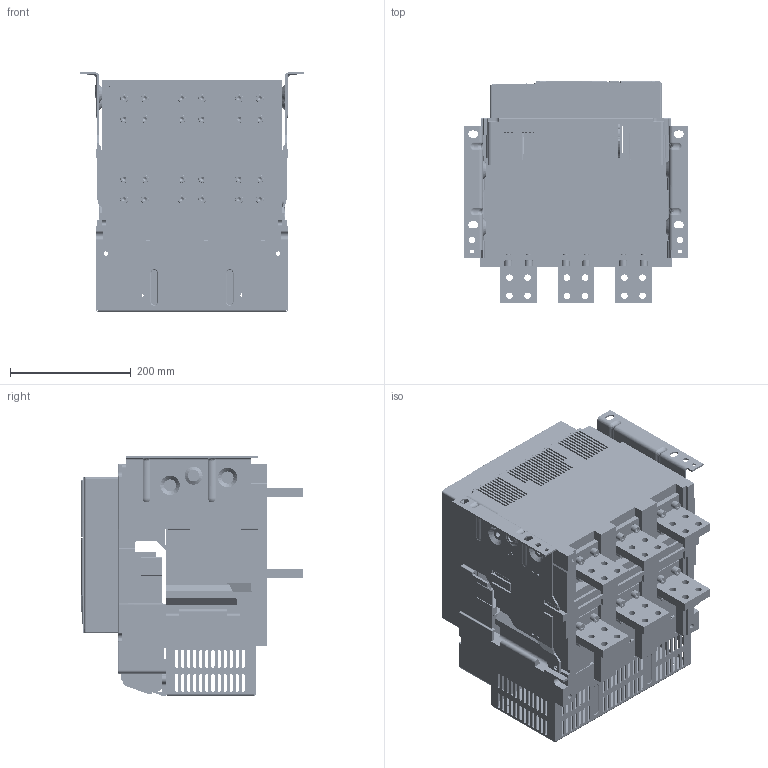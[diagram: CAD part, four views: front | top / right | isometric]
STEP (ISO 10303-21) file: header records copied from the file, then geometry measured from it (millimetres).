
FILE_DESCRIPTION((''),'2;1');
FILE_NAME('NA8-2500H-3P-F-630A-1600A-H_ASM','2021-11-08T10:06:59',('lcc'),(''),'CREO PARAMETRIC BY PTC INC, 2020044','CREO PARAMETRIC BY PTC INC, 2020044','');
FILE_SCHEMA(('CONFIG_CONTROL_DESIGN','SHAPE_APPEARANCE_LAYERS_GROUPS'));
Products named in the file (30): 2500-JIZUO-3P; 2500-DIBAN-3P; 8ZTD_123_166_A; 8ZTD_123_167_A; 8060A0306108; 8060A0306109; 8ZTD_060_208_V4; 8ZTD_253_781; 8ZTD_253_577; 8282A0820014; 8ZTD_321_090; 8ZTD_253_780; 8ZTD_253_779; 8ZTD_282_1203_AF0; 5ZTD_060_113_2_ASM; 8ZTD_300_A051; 8ZTD_253_782; 8ZTD-064-138; 8ZTD-024-689; 8ZTD-860-511; 1600-DUANZI-CTS_ASM; 8-040-432; 8-004-030; 8-320-094; 8-860-KZQ; 8580A0412106; GBT93_8; GBT70_1_M8X20; Q_NKJ_0200012_2_M8X20_ASM; NA8-2500H-3P-F-630A-1600A-H_ASM
Assembly tree (71 placements, depth 3):
  NA8-2500H-3P-F-630A-1600A-H_ASM
    2500-JIZUO-3P
    2500-DIBAN-3P
    8ZTD_123_166_A
    8ZTD_123_167_A
    8060A0306108
    8060A0306109
    5ZTD_060_113_2_ASM
      8ZTD_060_208_V4
      8ZTD_253_781
      8ZTD_253_577
      8282A0820014
      8ZTD_321_090
      8ZTD_253_780
      8ZTD_253_779
      8ZTD_282_1203_AF0  x2
    8ZTD_300_A051
    8ZTD_253_782
    1600-DUANZI-CTS_ASM
      8ZTD-064-138
      8ZTD-024-689  x14
      8ZTD-860-511
    8-040-432
    8-004-030
    8-320-094
    8-860-KZQ
    8580A0412106  x6
    Q_NKJ_0200012_2_M8X20_ASM  x24
      GBT93_8
      GBT70_1_M8X20
Bounding box: 370 x 368.4 x 395.5 mm (x, y, z)
Volume: 16263767.4 mm3; surface area: 2287489.5 mm2
Topology: 91 solids, 141 shells, 9817 faces, 26309 edges, 17150 vertices
Faces by surface type: plane 7106, cylinder 1726, cone 398, bspline 237, extrusion 198, torus 108, sphere 38, revolution 6
Entity records: 311766 total; most frequent: CARTESIAN_POINT 71218, ORIENTED_EDGE 33748, DIRECTION 30544, PRESENTATION_STYLE_ASSIGNMENT 21290, STYLED_ITEM 21168, EDGE_CURVE 16892, CURVE_STYLE 16625, VECTOR 12664
